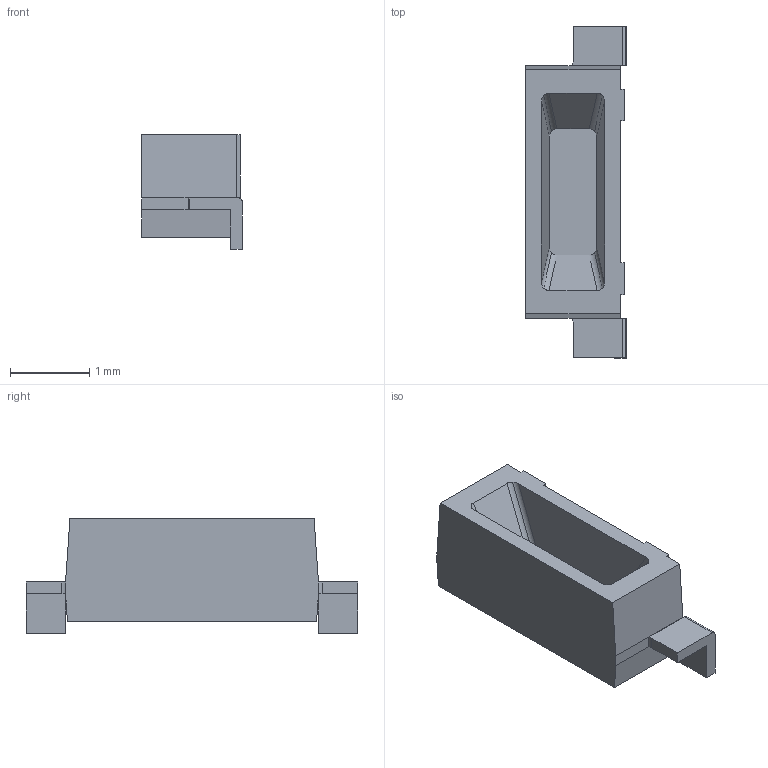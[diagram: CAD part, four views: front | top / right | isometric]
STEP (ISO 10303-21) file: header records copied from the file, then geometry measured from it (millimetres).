
FILE_DESCRIPTION(('STEP AP203'),'1');
FILE_NAME('C:/Users/chee-cheong.chan/Desktop/DSW-NSG.stp','2018-03-29T03:30:11',(' '),(' '),'Spatial InterOp 3D',' ',' ');
FILE_SCHEMA(('CONFIG_CONTROL_DESIGN'));
Length unit declared in the file: millimetre
Products named in the file (3): 1; 2; 3
Bounding box: 1.27 x 4.2 x 1.45 mm (x, y, z)
Volume: 4 mm3; surface area: 26 mm2
Topology: 3 solids, 3 shells, 56 faces, 144 edges, 96 vertices
Faces by surface type: plane 40, cylinder 14, cone 2
Entity records: 1832 total; most frequent: CARTESIAN_POINT 299, DIRECTION 294, ORIENTED_EDGE 288, EDGE_CURVE 144, LINE 112, VECTOR 112, VERTEX_POINT 96, AXIS2_PLACEMENT_3D 91
